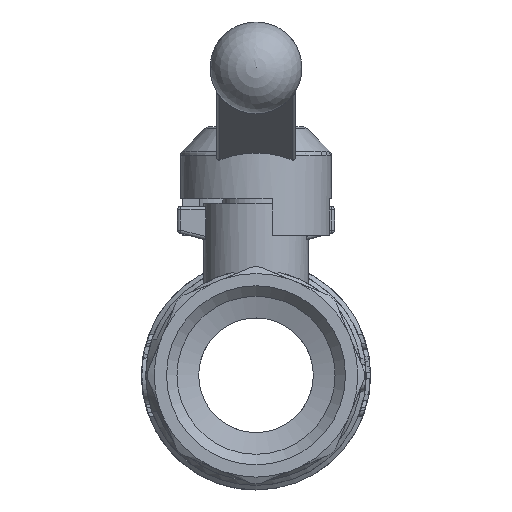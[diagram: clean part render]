
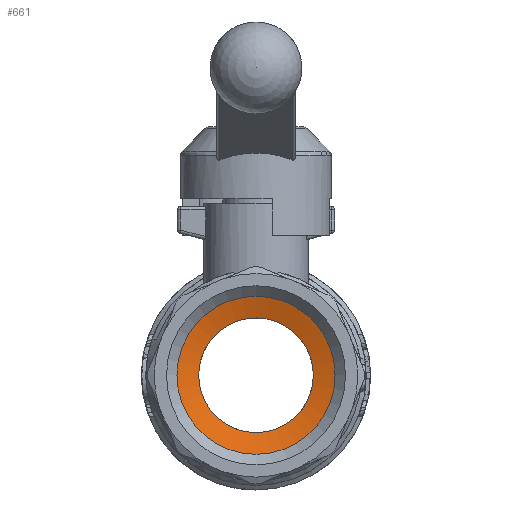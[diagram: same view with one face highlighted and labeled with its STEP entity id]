
A CAD part, front view. The second image highlights one B-rep face of the part: STEP entity #661.
In plain terms, the highlighted conical face has half-angle 73 degrees and reference radius 10.405 mm.
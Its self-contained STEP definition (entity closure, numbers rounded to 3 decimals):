
#661=ADVANCED_FACE('',(#6540,#6542),#6544,.F.);
#6540=FACE_OUTER_BOUND('',#6541,.T.);
#6541=EDGE_LOOP('',(#9871));
#6542=FACE_OUTER_BOUND('',#6543,.T.);
#6543=EDGE_LOOP('',(#9872));
#6544=CONICAL_SURFACE('',#6545,10.404,1.274);
#6545=AXIS2_PLACEMENT_3D('',#6546,#6547,#6548);
#6546=CARTESIAN_POINT('',(0.,7.906,0.));
#6547=DIRECTION('',(0.,-1.,0.));
#6548=DIRECTION('',(0.,0.,-1.));
#9871=ORIENTED_EDGE('',*,*,#11531,.T.);
#9872=ORIENTED_EDGE('',*,*,#11513,.T.);
#11513=EDGE_CURVE('',#14137,#14137,#14138,.T.);
#11531=EDGE_CURVE('',#14173,#14173,#14174,.F.);
#14137=VERTEX_POINT('',#26205);
#14138=CIRCLE('',#26206,12.059);
#14173=VERTEX_POINT('',#26286);
#14174=CIRCLE('',#26287,8.75);
#26205=CARTESIAN_POINT('',(0.,7.4,-12.059));
#26206=AXIS2_PLACEMENT_3D('',#26207,#26208,#26209);
#26207=CARTESIAN_POINT('',(0.,7.4,0.));
#26208=DIRECTION('',(0.,-1.,0.));
#26209=DIRECTION('',(0.,0.,-1.));
#26286=CARTESIAN_POINT('',(0.,8.412,-8.75));
#26287=AXIS2_PLACEMENT_3D('',#26288,#26289,#26290);
#26288=CARTESIAN_POINT('',(0.,8.412,0.));
#26289=DIRECTION('',(0.,-1.,0.));
#26290=DIRECTION('',(0.,0.,-1.));
